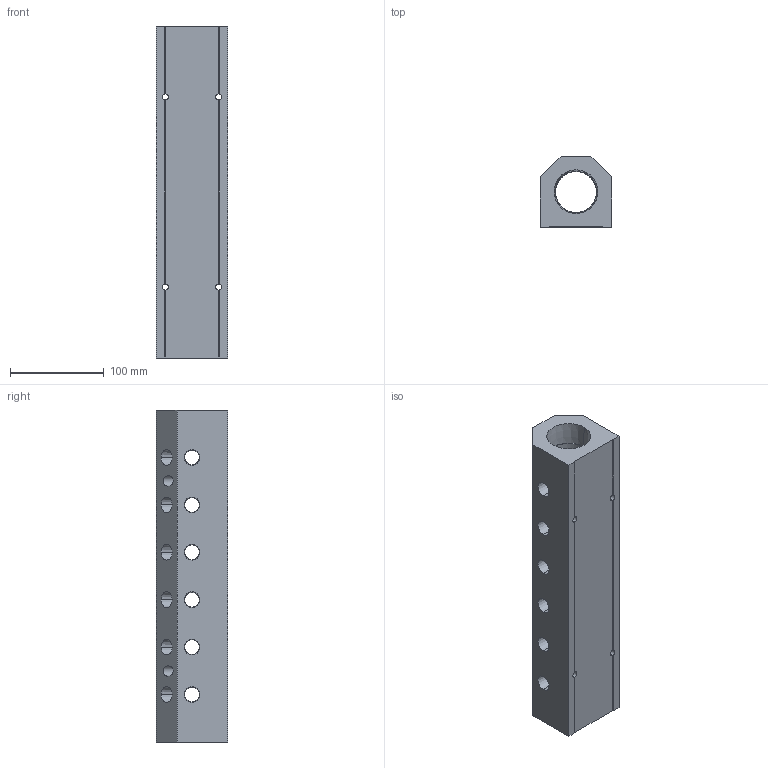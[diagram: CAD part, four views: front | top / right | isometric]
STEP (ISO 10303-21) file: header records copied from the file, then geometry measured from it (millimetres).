
FILE_DESCRIPTION (( 'STEP AP214' ), '1' );
FILE_NAME ('ALM6ABCDE-N6N24-355R.step', '2022-02-07T07:58:06', ( '' ), ( '' ), 'SwSTEP 2.0', 'SolidWorks 2020', '' );
FILE_SCHEMA (( 'AUTOMOTIVE_DESIGN' ));
Length unit declared in the file: millimetre
Products named in the file (1): ALM6ABCDE-N6N24-355R
Bounding box: 76.2 x 76.2 x 355 mm (x, y, z)
Volume: 1217201.3 mm3; surface area: 174518.6 mm2
Topology: 1 solids, 1 shells, 402 faces, 1093 edges, 718 vertices
Faces by surface type: plane 236, bspline 84, cone 64, cylinder 18
Entity records: 24397 total; most frequent: CARTESIAN_POINT 10864, ORIENTED_EDGE 2186, DIRECTION 1583, EDGE_CURVE 1093, LINE 753, VECTOR 753, VERTEX_POINT 718, EDGE_LOOP 497
